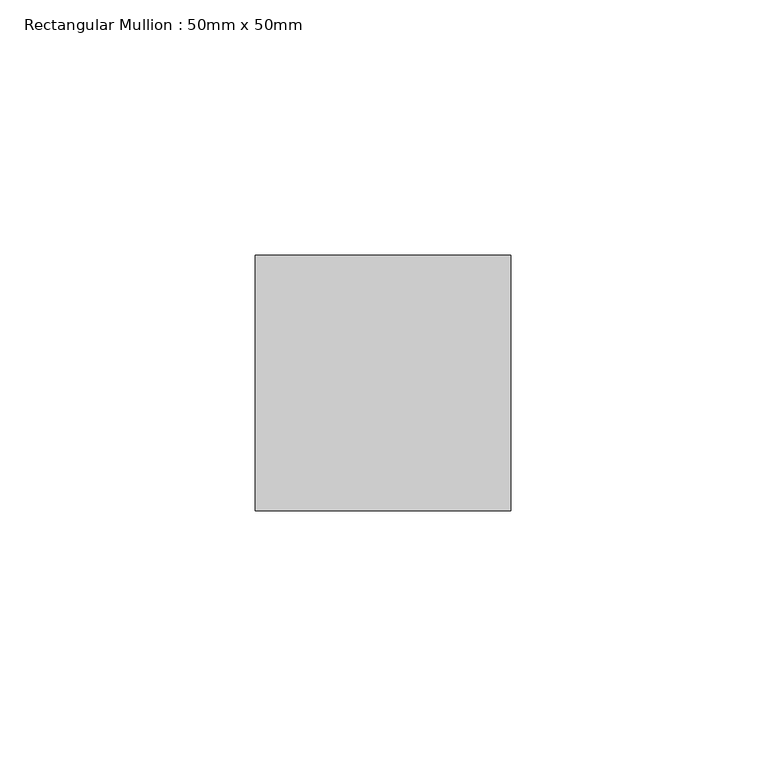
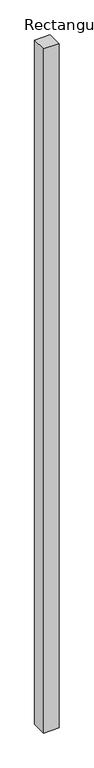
"""IFC4 building model written with IfcOpenShell, lengths in millimetres: member geometry, Rectangular Mullion : 50mm x 50mm."""

from ifc_helpers import new_model, si_unit, frame, origin, place, context, project, spatial, polyline, outline, extrude, source, transform, mapped, element, save


def rectangular_mullion_50mm_x_50mm_23f04355(model_context):
    return source(origin(), model_context, "Body", "SweptSolid", [
        extrude(outline(polyline([(0.0, 25.0), (0.0, -25.0), (-50.0, -25.0), (-50.0, 25.0), (0.0, 25.0)])), frame((0.0, 0.0, -2322.8617722), z_axis=(0.0, 0.0, 1.0), x_axis=(1.0, 0.0, 0.0)), (0.0, 0.0, 1.0), 2322.8617722),
    ])


if __name__ == "__main__":
    model = new_model("IFC4")
    model_context = context("Model", 3, world=origin())
    ifc_project = project(units=[si_unit("LENGTHUNIT", "METRE", prefix="MILLI")], contexts=[model_context])
    site = spatial("IfcSite", under=ifc_project)
    building = spatial("IfcBuilding", under=site)
    placement = place(None, origin())
    rectangular_mullion_50mm_x_50mm_shape = rectangular_mullion_50mm_x_50mm_23f04355(model_context)
    element("IfcMember", 1, ObjectType="Rectangular Mullion : 50mm x 50mm", at=placement, inside=building, context=model_context, shape_type="MappedRepresentation", body=[
        mapped(rectangular_mullion_50mm_x_50mm_shape, transform((0.0, 0.0, 0.0), x_axis=(1.0, 0.0, 0.0), y_axis=(0.0, 1.0, 0.0), z_axis=(0.0, 0.0, 1.0))),
    ])
    save(model, "model.ifc")
